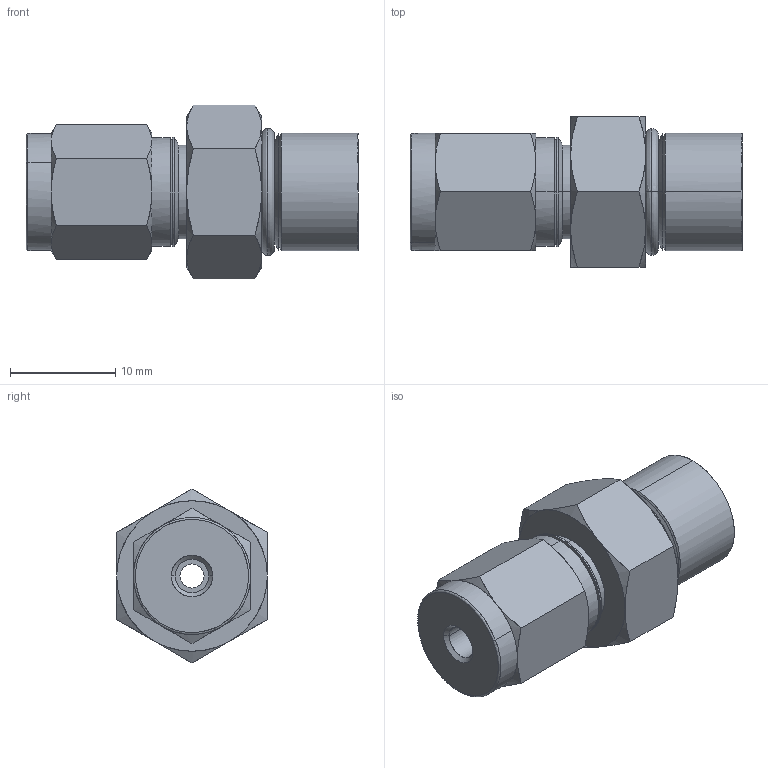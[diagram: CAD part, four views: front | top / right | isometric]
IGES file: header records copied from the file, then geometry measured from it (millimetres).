
Start section: ACIS data in IGES format
Global section: file name: Unknown; native system: ACIS; preprocessor: *IGES writer V5.2; author: unknown author; organization: unknown organization; date: 20050825.124531; units: millimetre
Bounding box: 31.5 x 14.29 x 16.5 mm (x, y, z)
Surface area: 2100.9 mm2 (no closed solid volume)
Topology: 0 solids, 0 shells, 95 faces, 532 edges, 532 vertices
Faces by surface type: bspline 95
